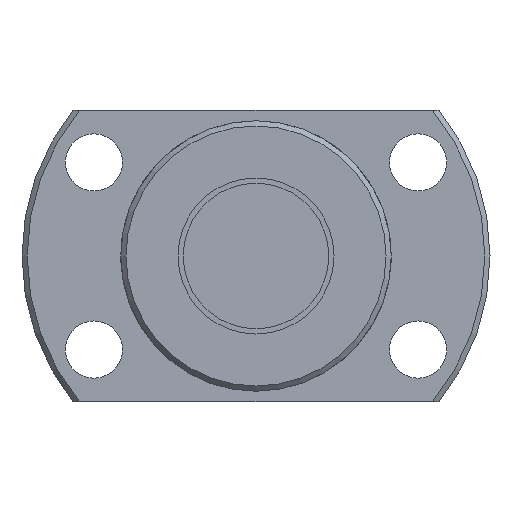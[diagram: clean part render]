
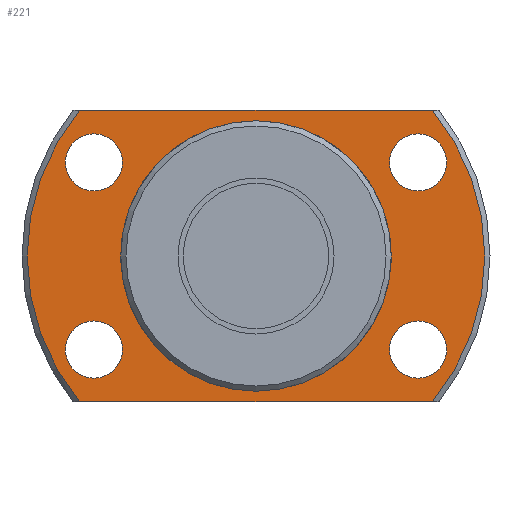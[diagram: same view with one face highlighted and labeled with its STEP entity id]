
A CAD part, left-side view. The second image highlights one B-rep face of the part: STEP entity #221.
In plain terms, the highlighted planar face has unit normal (-1, 0, 0).
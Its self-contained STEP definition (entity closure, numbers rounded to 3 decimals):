
#221 = ADVANCED_FACE( '', ( #354, #355, #356, #357, #358, #359 ), #360, .F. );
#354 = FACE_OUTER_BOUND( '', #501, .T. );
#355 = FACE_BOUND( '', #502, .T. );
#356 = FACE_BOUND( '', #503, .T. );
#357 = FACE_BOUND( '', #504, .T. );
#358 = FACE_BOUND( '', #505, .T. );
#359 = FACE_BOUND( '', #506, .T. );
#360 = PLANE( '', #507 );
#501 = EDGE_LOOP( '', ( #903, #904, #905, #906 ) );
#502 = EDGE_LOOP( '', ( #907 ) );
#503 = EDGE_LOOP( '', ( #908 ) );
#504 = EDGE_LOOP( '', ( #909 ) );
#505 = EDGE_LOOP( '', ( #910 ) );
#506 = EDGE_LOOP( '', ( #911 ) );
#507 = AXIS2_PLACEMENT_3D( '', #912, #913, #914 );
#903 = ORIENTED_EDGE( '', *, *, #984, .F. );
#904 = ORIENTED_EDGE( '', *, *, #1068, .T. );
#905 = ORIENTED_EDGE( '', *, *, #1062, .F. );
#906 = ORIENTED_EDGE( '', *, *, #978, .T. );
#907 = ORIENTED_EDGE( '', *, *, #1028, .T. );
#908 = ORIENTED_EDGE( '', *, *, #1026, .T. );
#909 = ORIENTED_EDGE( '', *, *, #1024, .T. );
#910 = ORIENTED_EDGE( '', *, *, #1022, .T. );
#911 = ORIENTED_EDGE( '', *, *, #1064, .T. );
#912 = CARTESIAN_POINT( '', ( 19., 12.75, 0. ) );
#913 = DIRECTION( '', ( 1., 0., 0. ) );
#914 = DIRECTION( '', ( 0., 0., -1. ) );
#978 = EDGE_CURVE( '', #1129, #1127, #1130, .T. );
#984 = EDGE_CURVE( '', #1140, #1127, #1141, .T. );
#1022 = EDGE_CURVE( '', #1208, #1208, #1209, .T. );
#1024 = EDGE_CURVE( '', #1212, #1212, #1213, .T. );
#1026 = EDGE_CURVE( '', #1216, #1216, #1217, .T. );
#1028 = EDGE_CURVE( '', #1220, #1220, #1221, .T. );
#1062 = EDGE_CURVE( '', #1129, #1273, #1274, .T. );
#1064 = EDGE_CURVE( '', #1276, #1276, #1277, .T. );
#1068 = EDGE_CURVE( '', #1140, #1273, #1282, .T. );
#1127 = VERTEX_POINT( '', #1400 );
#1129 = VERTEX_POINT( '', #1405 );
#1130 = LINE( '', #1406, #1407 );
#1140 = VERTEX_POINT( '', #1428 );
#1141 = CIRCLE( '', #1429, 22. );
#1208 = VERTEX_POINT( '', #1535 );
#1209 = CIRCLE( '', #1536, 2.75 );
#1212 = VERTEX_POINT( '', #1539 );
#1213 = CIRCLE( '', #1540, 2.75 );
#1216 = VERTEX_POINT( '', #1543 );
#1217 = CIRCLE( '', #1544, 2.75 );
#1220 = VERTEX_POINT( '', #1547 );
#1221 = CIRCLE( '', #1548, 2.75 );
#1273 = VERTEX_POINT( '', #1621 );
#1274 = CIRCLE( '', #1622, 22. );
#1276 = VERTEX_POINT( '', #1627 );
#1277 = CIRCLE( '', #1628, 12.75 );
#1282 = LINE( '', #1633, #1634 );
#1400 = CARTESIAN_POINT( '', ( 19., 16.971, 14. ) );
#1405 = CARTESIAN_POINT( '', ( 19., -16.971, 14. ) );
#1406 = CARTESIAN_POINT( '', ( 19., 12.75, 14. ) );
#1407 = VECTOR( '', #1688, 1000. );
#1428 = CARTESIAN_POINT( '', ( 19., 16.971, -14. ) );
#1429 = AXIS2_PLACEMENT_3D( '', #1691, #1692, #1693 );
#1535 = CARTESIAN_POINT( '', ( 19., 15.588, 6.25 ) );
#1536 = AXIS2_PLACEMENT_3D( '', #1754, #1755, #1756 );
#1539 = CARTESIAN_POINT( '', ( 19., 15.588, -11.75 ) );
#1540 = AXIS2_PLACEMENT_3D( '', #1760, #1761, #1762 );
#1543 = CARTESIAN_POINT( '', ( 19., -15.588, -11.75 ) );
#1544 = AXIS2_PLACEMENT_3D( '', #1766, #1767, #1768 );
#1547 = CARTESIAN_POINT( '', ( 19., -15.588, 6.25 ) );
#1548 = AXIS2_PLACEMENT_3D( '', #1772, #1773, #1774 );
#1621 = CARTESIAN_POINT( '', ( 19., -16.971, -14. ) );
#1622 = AXIS2_PLACEMENT_3D( '', #1838, #1839, #1840 );
#1627 = CARTESIAN_POINT( '', ( 19., 0., -12.75 ) );
#1628 = AXIS2_PLACEMENT_3D( '', #1841, #1842, #1843 );
#1633 = CARTESIAN_POINT( '', ( 19., 12.75, -14. ) );
#1634 = VECTOR( '', #1853, 1000. );
#1688 = DIRECTION( '', ( 0., 1., 0. ) );
#1691 = CARTESIAN_POINT( '', ( 19., 0., 0. ) );
#1692 = DIRECTION( '', ( 1., 0., 0. ) );
#1693 = DIRECTION( '', ( 0., 0., -1. ) );
#1754 = CARTESIAN_POINT( '', ( 19., 15.588, 9. ) );
#1755 = DIRECTION( '', ( 1., 0., 0. ) );
#1756 = DIRECTION( '', ( 0., 0., -1. ) );
#1760 = CARTESIAN_POINT( '', ( 19., 15.588, -9. ) );
#1761 = DIRECTION( '', ( 1., 0., 0. ) );
#1762 = DIRECTION( '', ( 0., 0., -1. ) );
#1766 = CARTESIAN_POINT( '', ( 19., -15.588, -9. ) );
#1767 = DIRECTION( '', ( 1., 0., 0. ) );
#1768 = DIRECTION( '', ( 0., 0., -1. ) );
#1772 = CARTESIAN_POINT( '', ( 19., -15.588, 9. ) );
#1773 = DIRECTION( '', ( 1., 0., 0. ) );
#1774 = DIRECTION( '', ( 0., 0., -1. ) );
#1838 = CARTESIAN_POINT( '', ( 19., 0., 0. ) );
#1839 = DIRECTION( '', ( 1., 0., 0. ) );
#1840 = DIRECTION( '', ( 0., 0., -1. ) );
#1841 = CARTESIAN_POINT( '', ( 19., 0., 0. ) );
#1842 = DIRECTION( '', ( 1., 0., 0. ) );
#1843 = DIRECTION( '', ( 0., 0., -1. ) );
#1853 = DIRECTION( '', ( 0., -1., 0. ) );
